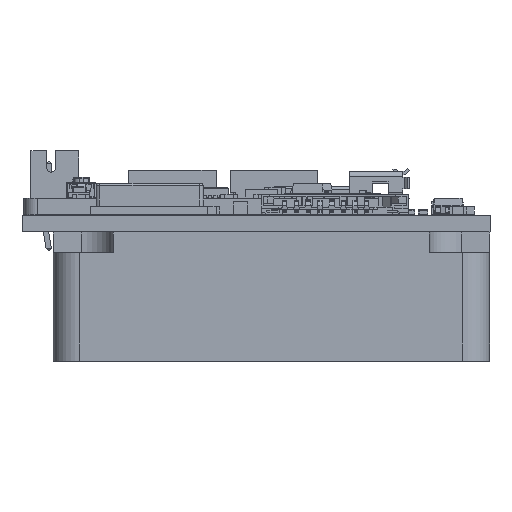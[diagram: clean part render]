
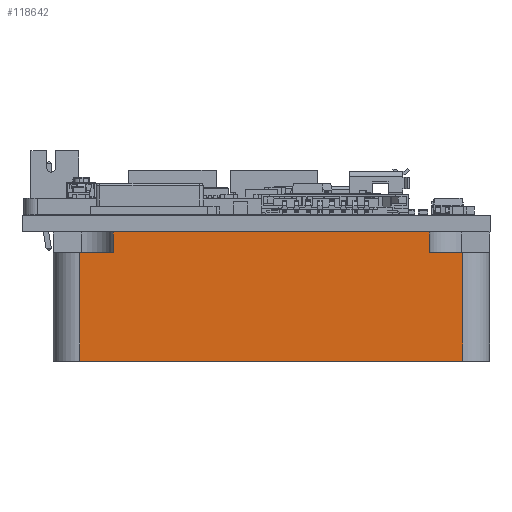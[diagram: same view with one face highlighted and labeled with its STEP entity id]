
A CAD part, left-side view. The second image highlights one B-rep face of the part: STEP entity #118642.
In plain terms, the highlighted planar face has unit normal (-1, 0, 0).
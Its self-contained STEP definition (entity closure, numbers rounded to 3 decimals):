
#118484 = VERTEX_POINT('',#118485);
#118485 = CARTESIAN_POINT('',(449.21,478.24,-13.));
#118491 = EDGE_CURVE('',#118484,#118492,#118494,.T.);
#118492 = VERTEX_POINT('',#118493);
#118493 = CARTESIAN_POINT('',(449.21,507.94,-13.));
#118494 = LINE('',#118495,#118496);
#118495 = CARTESIAN_POINT('',(449.21,513.59,-13.));
#118496 = VECTOR('',#118497,1.);
#118497 = DIRECTION('',(-0.,1.,-0.));
#118590 = VERTEX_POINT('',#118591);
#118591 = CARTESIAN_POINT('',(449.21,511.09,0.));
#118598 = EDGE_CURVE('',#118599,#118590,#118601,.T.);
#118599 = VERTEX_POINT('',#118600);
#118600 = CARTESIAN_POINT('',(449.21,475.09,0.));
#118601 = LINE('',#118602,#118603);
#118602 = CARTESIAN_POINT('',(449.21,513.59,0.));
#118603 = VECTOR('',#118604,1.);
#118604 = DIRECTION('',(0.,1.,0.));
#118642 = ADVANCED_FACE('',(#118643),#118691,.T.);
#118643 = FACE_BOUND('',#118644,.T.);
#118644 = EDGE_LOOP('',(#118645,#118646,#118654,#118662,#118668,#118669,
    #118677,#118685));
#118645 = ORIENTED_EDGE('',*,*,#118598,.T.);
#118646 = ORIENTED_EDGE('',*,*,#118647,.T.);
#118647 = EDGE_CURVE('',#118590,#118648,#118650,.T.);
#118648 = VERTEX_POINT('',#118649);
#118649 = CARTESIAN_POINT('',(449.21,511.09,-10.2));
#118650 = LINE('',#118651,#118652);
#118651 = CARTESIAN_POINT('',(449.21,511.09,41.));
#118652 = VECTOR('',#118653,1.);
#118653 = DIRECTION('',(0.,0.,-1.));
#118654 = ORIENTED_EDGE('',*,*,#118655,.F.);
#118655 = EDGE_CURVE('',#118656,#118648,#118658,.T.);
#118656 = VERTEX_POINT('',#118657);
#118657 = CARTESIAN_POINT('',(449.21,507.94,-10.2));
#118658 = LINE('',#118659,#118660);
#118659 = CARTESIAN_POINT('',(449.21,513.59,-10.2));
#118660 = VECTOR('',#118661,1.);
#118661 = DIRECTION('',(-0.,1.,-0.));
#118662 = ORIENTED_EDGE('',*,*,#118663,.T.);
#118663 = EDGE_CURVE('',#118656,#118492,#118664,.T.);
#118664 = LINE('',#118665,#118666);
#118665 = CARTESIAN_POINT('',(449.21,507.94,-10.2));
#118666 = VECTOR('',#118667,1.);
#118667 = DIRECTION('',(-0.,-0.,-1.));
#118668 = ORIENTED_EDGE('',*,*,#118491,.F.);
#118669 = ORIENTED_EDGE('',*,*,#118670,.F.);
#118670 = EDGE_CURVE('',#118671,#118484,#118673,.T.);
#118671 = VERTEX_POINT('',#118672);
#118672 = CARTESIAN_POINT('',(449.21,478.24,-10.2));
#118673 = LINE('',#118674,#118675);
#118674 = CARTESIAN_POINT('',(449.21,478.24,-10.2));
#118675 = VECTOR('',#118676,1.);
#118676 = DIRECTION('',(-0.,-0.,-1.));
#118677 = ORIENTED_EDGE('',*,*,#118678,.F.);
#118678 = EDGE_CURVE('',#118679,#118671,#118681,.T.);
#118679 = VERTEX_POINT('',#118680);
#118680 = CARTESIAN_POINT('',(449.21,475.09,-10.2));
#118681 = LINE('',#118682,#118683);
#118682 = CARTESIAN_POINT('',(449.21,472.59,-10.2));
#118683 = VECTOR('',#118684,1.);
#118684 = DIRECTION('',(0.,1.,0.));
#118685 = ORIENTED_EDGE('',*,*,#118686,.T.);
#118686 = EDGE_CURVE('',#118679,#118599,#118687,.T.);
#118687 = LINE('',#118688,#118689);
#118688 = CARTESIAN_POINT('',(449.21,475.09,41.));
#118689 = VECTOR('',#118690,1.);
#118690 = DIRECTION('',(-0.,-0.,1.));
#118691 = PLANE('',#118692);
#118692 = AXIS2_PLACEMENT_3D('',#118693,#118694,#118695);
#118693 = CARTESIAN_POINT('',(449.21,513.59,41.));
#118694 = DIRECTION('',(-1.,0.,-0.));
#118695 = DIRECTION('',(0.,0.,1.));
